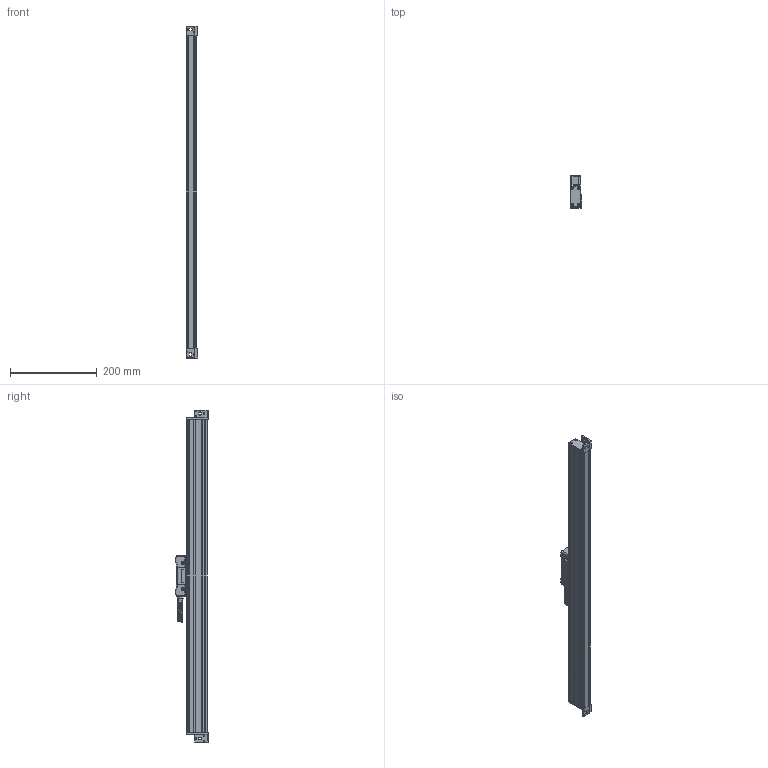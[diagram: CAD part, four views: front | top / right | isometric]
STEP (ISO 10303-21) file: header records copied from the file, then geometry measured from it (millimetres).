
FILE_DESCRIPTION (( 'STEP AP214' ), '1' );
FILE_NAME ('MLC310x0600.STEP', '2021-05-08T11:50:46', ( '' ), ( '' ), 'SwSTEP 2.0', 'SolidWorks 2014', '' );
FILE_SCHEMA (( 'AUTOMOTIVE_DESIGN' ));
Length unit declared in the file: millimetre
Products named in the file (1): MLC310x0600
Bounding box: 27 x 75.15 x 764 mm (x, y, z)
Surface area: 141355.3 mm2 (no closed solid volume)
Topology: 0 solids, 22 shells, 421 faces, 1372 edges, 964 vertices
Faces by surface type: plane 174, cylinder 143, cone 73, bspline 21, torus 10
Entity records: 29470 total; most frequent: CARTESIAN_POINT 13106, DIRECTION 2414, ORIENTED_EDGE 2182, EDGE_CURVE 1368, VERTEX_POINT 964, AXIS2_PLACEMENT_3D 840, LINE 734, VECTOR 734
